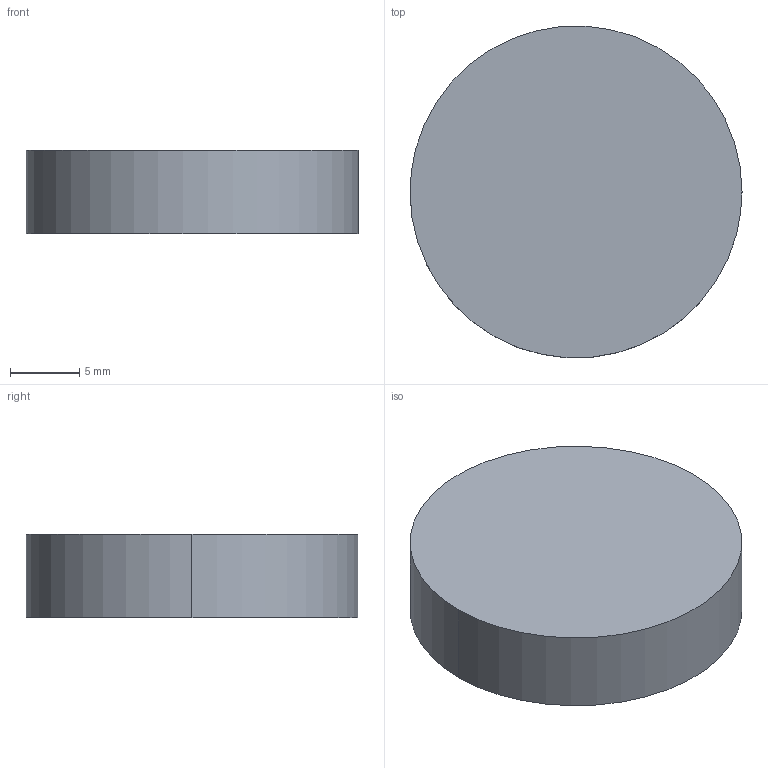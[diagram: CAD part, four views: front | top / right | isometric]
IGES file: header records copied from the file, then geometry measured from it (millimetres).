
Global section: file name: C:\Data\ZemaxVC\puck.IGS; native system: HarmonyWare Translators; preprocessor: HarmonyWare IGES v1.2.6; date: 20010104.124146; units: millimetre
Bounding box: 24 x 23.96 x 6 mm (x, y, z)
Volume: 2714.5 mm3; surface area: 1357.2 mm2
Topology: 1 solids, 1 shells, 4 faces, 14 edges, 20 vertices
Faces by surface type: bspline 4
